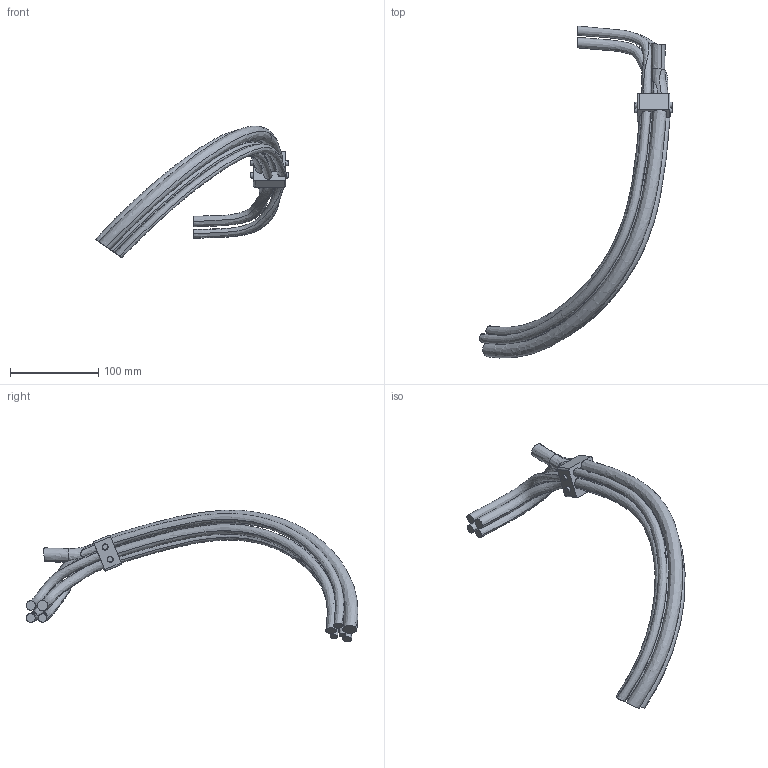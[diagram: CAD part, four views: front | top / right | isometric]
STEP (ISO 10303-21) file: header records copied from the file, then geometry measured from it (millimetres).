
FILE_DESCRIPTION (( 'STEP AP214' ), '1' );
FILE_NAME ('IRB4600_60kg-205_CABLES_LINK3_rev03.STEP', '2016-12-06T10:36:22', ( 'ABB' ), ( 'ABB' ), 'SwSTEP 2.0', 'SolidWorks 2014', '' );
FILE_SCHEMA (( 'AUTOMOTIVE_DESIGN' ));
Length unit declared in the file: millimetre
Products named in the file (1): IRB4600_60kg-205_CABLES_LINK3_rev03
Bounding box: 218.78 x 375.91 x 149.01 mm (x, y, z)
Volume: 309478.2 mm3; surface area: 105831.4 mm2
Topology: 1 solids, 1 shells, 66 faces, 158 edges, 105 vertices
Faces by surface type: bspline 27, plane 23, cone 8, cylinder 8
Entity records: 5798 total; most frequent: CARTESIAN_POINT 4450, ORIENTED_EDGE 316, DIRECTION 203, EDGE_CURVE 158, VERTEX_POINT 105, AXIS2_PLACEMENT_3D 86, EDGE_LOOP 77, B_SPLINE_CURVE_WITH_KNOTS 75
